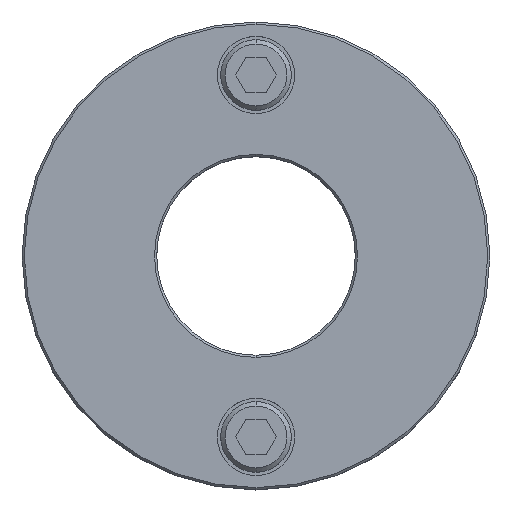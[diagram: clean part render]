
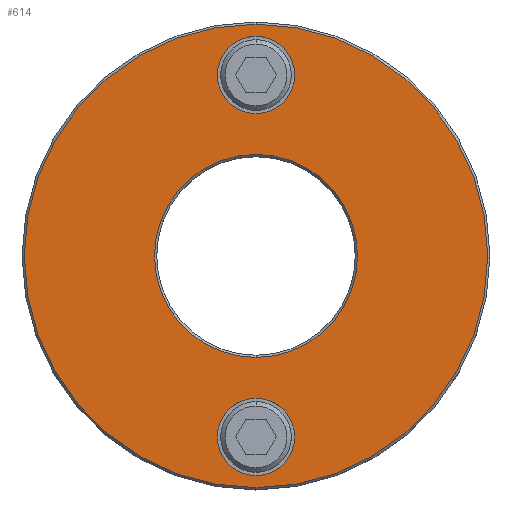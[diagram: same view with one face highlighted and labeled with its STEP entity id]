
A CAD part, top view. The second image highlights one B-rep face of the part: STEP entity #614.
In plain terms, the highlighted planar face has unit normal (0, 0, 1).
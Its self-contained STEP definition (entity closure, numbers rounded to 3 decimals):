
#105=VERTEX_POINT(' ',#106);
#106=CARTESIAN_POINT('',(0.,32.25,20.));
#107=VERTEX_POINT(' ',#108);
#108=CARTESIAN_POINT('',(0.,49.75,20.));
#113=VERTEX_POINT(' ',#114);
#114=CARTESIAN_POINT('',(0.,-49.75,20.));
#115=VERTEX_POINT(' ',#116);
#116=CARTESIAN_POINT('',(0.,-32.25,20.));
#123=VERTEX_POINT(' ',#124);
#124=CARTESIAN_POINT('',(0.,52.5,20.));
#125=VERTEX_POINT(' ',#126);
#126=CARTESIAN_POINT('',(0.,-52.5,20.));
#129=VERTEX_POINT(' ',#130);
#130=CARTESIAN_POINT('',(0.,-23.,20.));
#131=VERTEX_POINT(' ',#132);
#132=CARTESIAN_POINT('',(0.,23.,20.));
#221=CIRCLE('',#222,8.75);
#222=AXIS2_PLACEMENT_3D('',#223,#224,#225);
#223=CARTESIAN_POINT('',(0.,41.,20.));
#224=DIRECTION('',(0.,0.,-1.));
#225=DIRECTION('',(-1.,0.,0.));
#226=EDGE_CURVE(' ',#105,#107,#221,.F.);
#243=CIRCLE('',#244,8.75);
#244=AXIS2_PLACEMENT_3D('',#245,#246,#247);
#245=CARTESIAN_POINT('',(0.,41.,20.));
#246=DIRECTION('',(0.,0.,-1.));
#247=DIRECTION('',(1.,0.,0.));
#248=EDGE_CURVE(' ',#107,#105,#243,.F.);
#255=CIRCLE('',#256,8.75);
#256=AXIS2_PLACEMENT_3D('',#257,#258,#259);
#257=CARTESIAN_POINT('',(0.,-41.,20.));
#258=DIRECTION('',(0.,0.,-1.));
#259=DIRECTION('',(-1.,0.,0.));
#260=EDGE_CURVE(' ',#113,#115,#255,.F.);
#277=CIRCLE('',#278,8.75);
#278=AXIS2_PLACEMENT_3D('',#279,#280,#281);
#279=CARTESIAN_POINT('',(0.,-41.,20.));
#280=DIRECTION('',(0.,0.,-1.));
#281=DIRECTION('',(1.,0.,0.));
#282=EDGE_CURVE(' ',#115,#113,#277,.F.);
#294=CIRCLE('',#295,52.5);
#295=AXIS2_PLACEMENT_3D('',#296,#297,#298);
#296=CARTESIAN_POINT('',(0.,0.,20.));
#297=DIRECTION('',(0.,0.,1.));
#298=DIRECTION('',(-1.,0.,0.));
#299=EDGE_CURVE(' ',#123,#125,#294,.F.);
#317=CIRCLE('',#318,52.5);
#318=AXIS2_PLACEMENT_3D('',#319,#320,#321);
#319=CARTESIAN_POINT('',(0.,0.,20.));
#320=DIRECTION('',(0.,0.,1.));
#321=DIRECTION('',(1.,0.,0.));
#322=EDGE_CURVE(' ',#125,#123,#317,.F.);
#323=CIRCLE('',#324,23.);
#324=AXIS2_PLACEMENT_3D('',#325,#326,#327);
#325=CARTESIAN_POINT('',(0.,0.,20.));
#326=DIRECTION('',(0.,0.,-1.));
#327=DIRECTION('',(1.,0.,0.));
#328=EDGE_CURVE(' ',#131,#129,#323,.F.);
#329=CIRCLE('',#330,23.);
#330=AXIS2_PLACEMENT_3D('',#331,#332,#333);
#331=CARTESIAN_POINT('',(0.,0.,20.));
#332=DIRECTION('',(0.,0.,-1.));
#333=DIRECTION('',(-1.,0.,0.));
#334=EDGE_CURVE(' ',#129,#131,#329,.F.);
#593=ORIENTED_EDGE('',*,*,#299,.F.);
#594=ORIENTED_EDGE('',*,*,#322,.F.);
#595=EDGE_LOOP('',(#593,#594));
#596=FACE_OUTER_BOUND('',#595,.T.);
#597=ORIENTED_EDGE('',*,*,#328,.F.);
#598=ORIENTED_EDGE('',*,*,#334,.F.);
#599=EDGE_LOOP('',(#597,#598));
#600=FACE_BOUND('',#599,.T.);
#601=ORIENTED_EDGE('',*,*,#282,.F.);
#602=ORIENTED_EDGE('',*,*,#260,.F.);
#603=EDGE_LOOP('',(#601,#602));
#604=FACE_BOUND('',#603,.T.);
#605=ORIENTED_EDGE('',*,*,#248,.F.);
#606=ORIENTED_EDGE('',*,*,#226,.F.);
#607=EDGE_LOOP('',(#605,#606));
#608=FACE_BOUND('',#607,.T.);
#609=PLANE('',#610);
#610=AXIS2_PLACEMENT_3D('',#611,#612,#613);
#611=CARTESIAN_POINT('',(53.,0.,20.));
#612=DIRECTION('',(0.,0.,1.));
#613=DIRECTION('',(0.,1.,0.));
#614=ADVANCED_FACE('',(#596,#600,#604,#608),#609,.T.);
